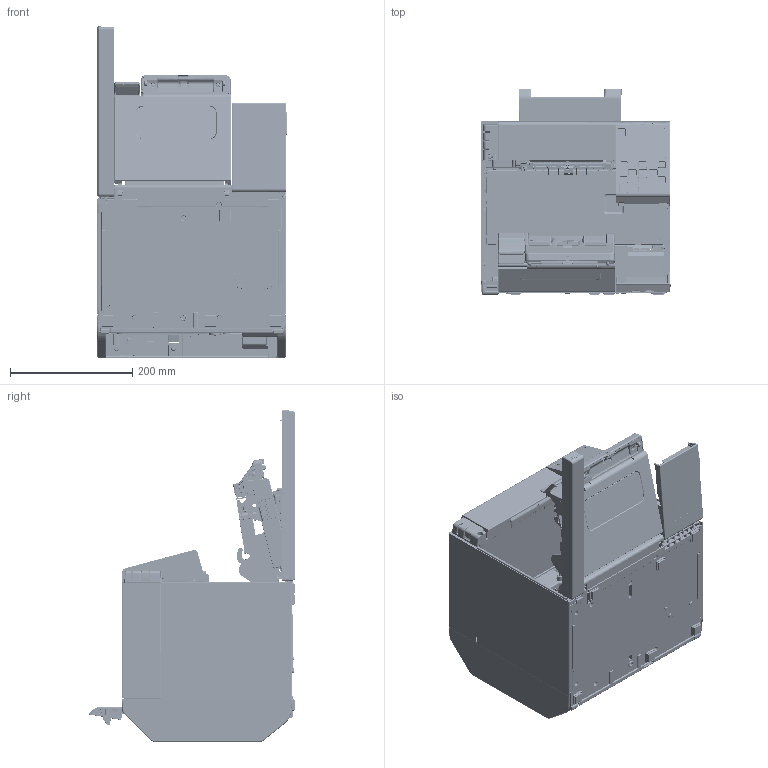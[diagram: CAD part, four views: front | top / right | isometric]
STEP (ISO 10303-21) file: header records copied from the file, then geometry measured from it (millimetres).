
FILE_DESCRIPTION((''),'2;1');
FILE_NAME('DEL-CW-C4000_OPEN_250131','2025-01-31T15:29:56',('5011256'),(''),'CREO PARAMETRIC BY PTC INC, 2021184','CREO PARAMETRIC BY PTC INC, 2021184','');
FILE_SCHEMA(('AUTOMOTIVE_DESIGN { 1 0 10303 214 1 1 1 1 }'));
Products named in the file (1): DEL-CW-C4000_OPEN_250131
Bounding box: 311.8 x 338.45 x 542.98 mm (x, y, z)
Surface area: 1755562.8 mm2 (no closed solid volume)
Topology: 0 solids, 369 shells, 13716 faces, 49714 edges, 34585 vertices
Faces by surface type: plane 7496, cylinder 4435, torus 778, bspline 470, cone 330, sphere 177, extrusion 30
Entity records: 731069 total; most frequent: CARTESIAN_POINT 325272, ORIENTED_EDGE 83410, DIRECTION 77030, EDGE_CURVE 49584, VERTEX_POINT 34585, VECTOR 31258, LINE 31228, AXIS2_PLACEMENT_3D 22886
